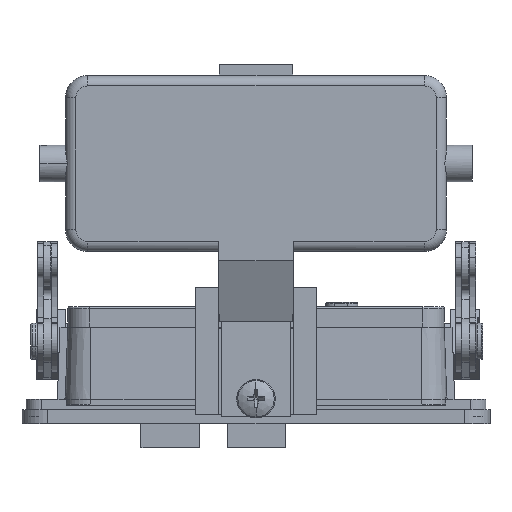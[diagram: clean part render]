
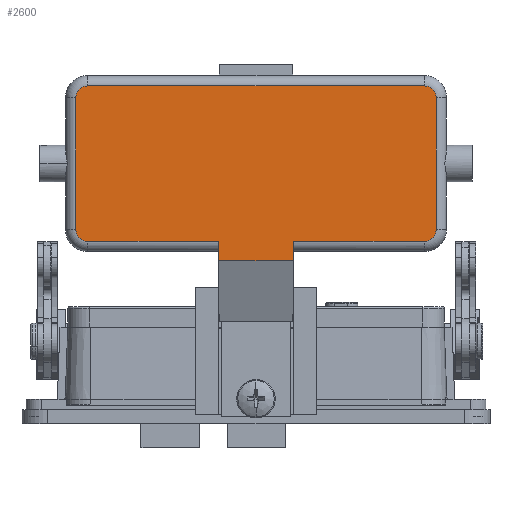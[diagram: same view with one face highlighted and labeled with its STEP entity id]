
A CAD part, front view. The second image highlights one B-rep face of the part: STEP entity #2600.
In plain terms, the highlighted planar face has unit normal (0, -1, 0).
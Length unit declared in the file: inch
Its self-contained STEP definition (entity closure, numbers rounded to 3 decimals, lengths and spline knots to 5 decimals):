
#1489 = VERTEX_POINT ( 'NONE', #40430 ) ;
#1491 = EDGE_CURVE ( 'NONE', #14733, #1489, #40428, .T. ) ;
#1497 = VERTEX_POINT ( 'NONE', #40459 ) ;
#1499 = EDGE_CURVE ( 'NONE', #1489, #1497, #40457, .T. ) ;
#1507 = VERTEX_POINT ( 'NONE', #40560 ) ;
#1509 = EDGE_CURVE ( 'NONE', #1497, #1507, #40559, .T. ) ;
#2600 = ADVANCED_FACE ( 'NONE', ( #44900 ), #45035, .F. ) ;
#2601 = EDGE_LOOP ( 'NONE', ( #2602, #2603, #2604, #2605, #2606, #2607, #2608, #2609, #2610, #2613, #2798, #2799 ) ) ;
#2602 = ORIENTED_EDGE ( 'NONE', *, *, #2774, .F. ) ;
#2603 = ORIENTED_EDGE ( 'NONE', *, *, #2780, .T. ) ;
#2604 = ORIENTED_EDGE ( 'NONE', *, *, #14893, .F. ) ;
#2605 = ORIENTED_EDGE ( 'NONE', *, *, #58729, .T. ) ;
#2606 = ORIENTED_EDGE ( 'NONE', *, *, #14735, .T. ) ;
#2607 = ORIENTED_EDGE ( 'NONE', *, *, #1491, .T. ) ;
#2608 = ORIENTED_EDGE ( 'NONE', *, *, #1499, .T. ) ;
#2609 = ORIENTED_EDGE ( 'NONE', *, *, #1509, .T. ) ;
#2610 = ORIENTED_EDGE ( 'NONE', *, *, #2611, .T. ) ;
#2611 = EDGE_CURVE ( 'NONE', #1507, #2612, #45030, .T. ) ;
#2612 = VERTEX_POINT ( 'NONE', #45025 ) ;
#2613 = ORIENTED_EDGE ( 'NONE', *, *, #2797, .T. ) ;
#2631 = VERTEX_POINT ( 'NONE', #45263 ) ;
#2774 = EDGE_CURVE ( 'NONE', #2631, #58667, #45622, .T. ) ;
#2780 = EDGE_CURVE ( 'NONE', #2631, #14890, #47594, .T. ) ;
#2797 = EDGE_CURVE ( 'NONE', #2612, #2812, #47558, .T. ) ;
#2798 = ORIENTED_EDGE ( 'NONE', *, *, #2811, .T. ) ;
#2799 = ORIENTED_EDGE ( 'NONE', *, *, #58627, .T. ) ;
#2811 = EDGE_CURVE ( 'NONE', #2812, #58568, #47600, .T. ) ;
#2812 = VERTEX_POINT ( 'NONE', #47596 ) ;
#3709 = DIRECTION ( 'NONE',  ( -1., 0., 0. ) ) ;
#3710 = DIRECTION ( 'NONE',  ( 0., -1., 0. ) ) ;
#3711 = CARTESIAN_POINT ( 'NONE',  ( 1.636, -1.87264, 1.82 ) ) ;
#3712 = AXIS2_PLACEMENT_3D ( 'NONE', #3711, #3710, #3709 ) ;
#3713 = CIRCLE ( 'NONE', #3712, 0.11462 ) ;
#3715 = CARTESIAN_POINT ( 'NONE',  ( 1.75062, -1.87264, 1.82 ) ) ;
#4798 = DIRECTION ( 'NONE',  ( 0., 0., -1. ) ) ;
#4800 = VECTOR ( 'NONE', #4798, 39.37008 ) ;
#4801 = CARTESIAN_POINT ( 'NONE',  ( 0.36338, -1.87264, -1.32286 ) ) ;
#4803 = LINE ( 'NONE', #4801, #4800 ) ;
#4806 = CARTESIAN_POINT ( 'NONE',  ( 0.36338, -1.87264, 1.51569 ) ) ;
#14733 = VERTEX_POINT ( 'NONE', #3715 ) ;
#14735 = EDGE_CURVE ( 'NONE', #58566, #14733, #3713, .T. ) ;
#14890 = VERTEX_POINT ( 'NONE', #4806 ) ;
#14893 = EDGE_CURVE ( 'NONE', #58680, #14890, #4803, .T. ) ;
#23283 = CARTESIAN_POINT ( 'NONE',  ( -1.636, -1.87264, 1.70538 ) ) ;
#23288 = CARTESIAN_POINT ( 'NONE',  ( 1.636, -1.87264, 1.70538 ) ) ;
#23644 = DIRECTION ( 'NONE',  ( 1., 0., 0. ) ) ;
#23645 = VECTOR ( 'NONE', #23644, 39.37008 ) ;
#23647 = CARTESIAN_POINT ( 'NONE',  ( -0.36338, -1.87264, 1.70538 ) ) ;
#23648 = LINE ( 'NONE', #23647, #23645 ) ;
#23832 = CARTESIAN_POINT ( 'NONE',  ( -0.36338, -1.87264, 1.70538 ) ) ;
#23886 = CARTESIAN_POINT ( 'NONE',  ( 0.36338, -1.87264, 1.70538 ) ) ;
#24462 = DIRECTION ( 'NONE',  ( 1., 0., 0. ) ) ;
#24463 = VECTOR ( 'NONE', #24462, 39.37008 ) ;
#24464 = CARTESIAN_POINT ( 'NONE',  ( 1.636, -1.87264, 1.70538 ) ) ;
#24465 = LINE ( 'NONE', #24464, #24463 ) ;
#40425 = DIRECTION ( 'NONE',  ( 0., 0., 1. ) ) ;
#40426 = VECTOR ( 'NONE', #40425, 39.37008 ) ;
#40427 = CARTESIAN_POINT ( 'NONE',  ( 1.75062, -1.87264, 3.1 ) ) ;
#40428 = LINE ( 'NONE', #40427, #40426 ) ;
#40430 = CARTESIAN_POINT ( 'NONE',  ( 1.75062, -1.87264, 3.1 ) ) ;
#40453 = DIRECTION ( 'NONE',  ( -1., 0., 0. ) ) ;
#40454 = DIRECTION ( 'NONE',  ( 0., -1., 0. ) ) ;
#40455 = CARTESIAN_POINT ( 'NONE',  ( 1.636, -1.87264, 3.1 ) ) ;
#40456 = AXIS2_PLACEMENT_3D ( 'NONE', #40455, #40454, #40453 ) ;
#40457 = CIRCLE ( 'NONE', #40456, 0.11462 ) ;
#40459 = CARTESIAN_POINT ( 'NONE',  ( 1.636, -1.87264, 3.21462 ) ) ;
#40556 = DIRECTION ( 'NONE',  ( -1., 0., 0. ) ) ;
#40557 = VECTOR ( 'NONE', #40556, 39.37008 ) ;
#40558 = CARTESIAN_POINT ( 'NONE',  ( 0., -1.87264, 3.21462 ) ) ;
#40559 = LINE ( 'NONE', #40558, #40557 ) ;
#40560 = CARTESIAN_POINT ( 'NONE',  ( -1.636, -1.87264, 3.21462 ) ) ;
#44900 = FACE_OUTER_BOUND ( 'NONE', #2601, .T. ) ;
#45025 = CARTESIAN_POINT ( 'NONE',  ( -1.75062, -1.87264, 3.1 ) ) ;
#45026 = DIRECTION ( 'NONE',  ( -1., 0., 0. ) ) ;
#45027 = DIRECTION ( 'NONE',  ( 0., -1., 0. ) ) ;
#45028 = CARTESIAN_POINT ( 'NONE',  ( -1.636, -1.87264, 3.1 ) ) ;
#45029 = AXIS2_PLACEMENT_3D ( 'NONE', #45028, #45027, #45026 ) ;
#45030 = CIRCLE ( 'NONE', #45029, 0.11462 ) ;
#45031 = DIRECTION ( 'NONE',  ( -1., 0., 0. ) ) ;
#45032 = DIRECTION ( 'NONE',  ( 0., 1., 0. ) ) ;
#45033 = CARTESIAN_POINT ( 'NONE',  ( 0., -1.87264, -1.32286 ) ) ;
#45034 = AXIS2_PLACEMENT_3D ( 'NONE', #45033, #45032, #45031 ) ;
#45035 = PLANE ( 'NONE',  #45034 ) ;
#45263 = CARTESIAN_POINT ( 'NONE',  ( -0.36338, -1.87264, 1.51569 ) ) ;
#45621 = CARTESIAN_POINT ( 'NONE',  ( -0.36338, -1.87264, -1.32286 ) ) ;
#45622 = LINE ( 'NONE', #45621, #47608 ) ;
#47555 = DIRECTION ( 'NONE',  ( 0., 0., -1. ) ) ;
#47556 = VECTOR ( 'NONE', #47555, 39.37008 ) ;
#47557 = CARTESIAN_POINT ( 'NONE',  ( -1.75062, -1.87264, -1.32286 ) ) ;
#47558 = LINE ( 'NONE', #47557, #47556 ) ;
#47591 = DIRECTION ( 'NONE',  ( 1., 0., 0. ) ) ;
#47592 = VECTOR ( 'NONE', #47591, 39.37008 ) ;
#47593 = CARTESIAN_POINT ( 'NONE',  ( 0., -1.87264, 1.51569 ) ) ;
#47594 = LINE ( 'NONE', #47593, #47592 ) ;
#47596 = CARTESIAN_POINT ( 'NONE',  ( -1.75062, -1.87264, 1.82 ) ) ;
#47597 = DIRECTION ( 'NONE',  ( -1., 0., 0. ) ) ;
#47598 = DIRECTION ( 'NONE',  ( 0., -1., 0. ) ) ;
#47599 = AXIS2_PLACEMENT_3D ( 'NONE', #47606, #47598, #47597 ) ;
#47600 = CIRCLE ( 'NONE', #47599, 0.11462 ) ;
#47606 = CARTESIAN_POINT ( 'NONE',  ( -1.636, -1.87264, 1.82 ) ) ;
#47607 = DIRECTION ( 'NONE',  ( 0., 0., 1. ) ) ;
#47608 = VECTOR ( 'NONE', #47607, 39.37008 ) ;
#58566 = VERTEX_POINT ( 'NONE', #23288 ) ;
#58568 = VERTEX_POINT ( 'NONE', #23283 ) ;
#58627 = EDGE_CURVE ( 'NONE', #58568, #58667, #23648, .T. ) ;
#58667 = VERTEX_POINT ( 'NONE', #23832 ) ;
#58680 = VERTEX_POINT ( 'NONE', #23886 ) ;
#58729 = EDGE_CURVE ( 'NONE', #58680, #58566, #24465, .T. ) ;
